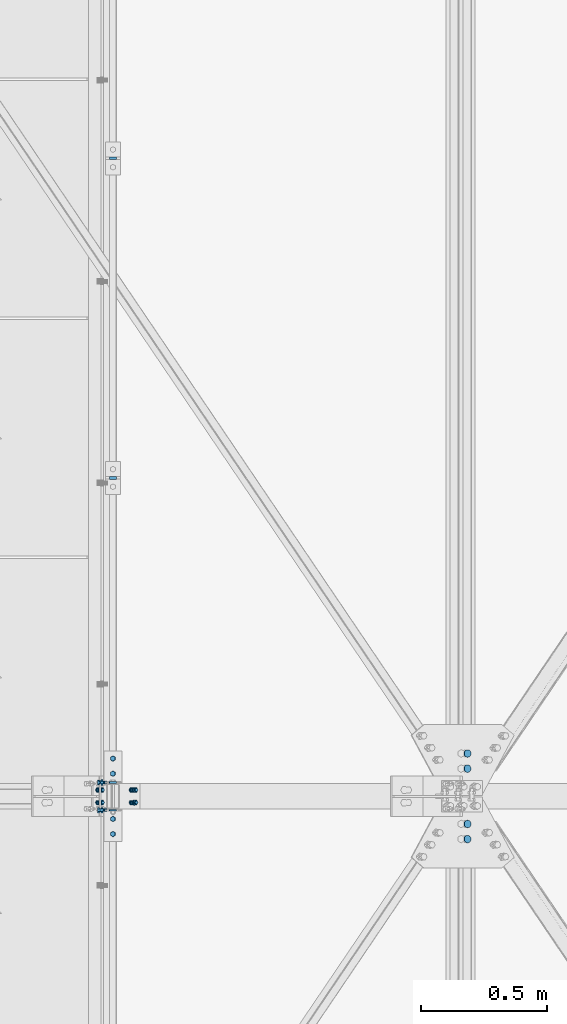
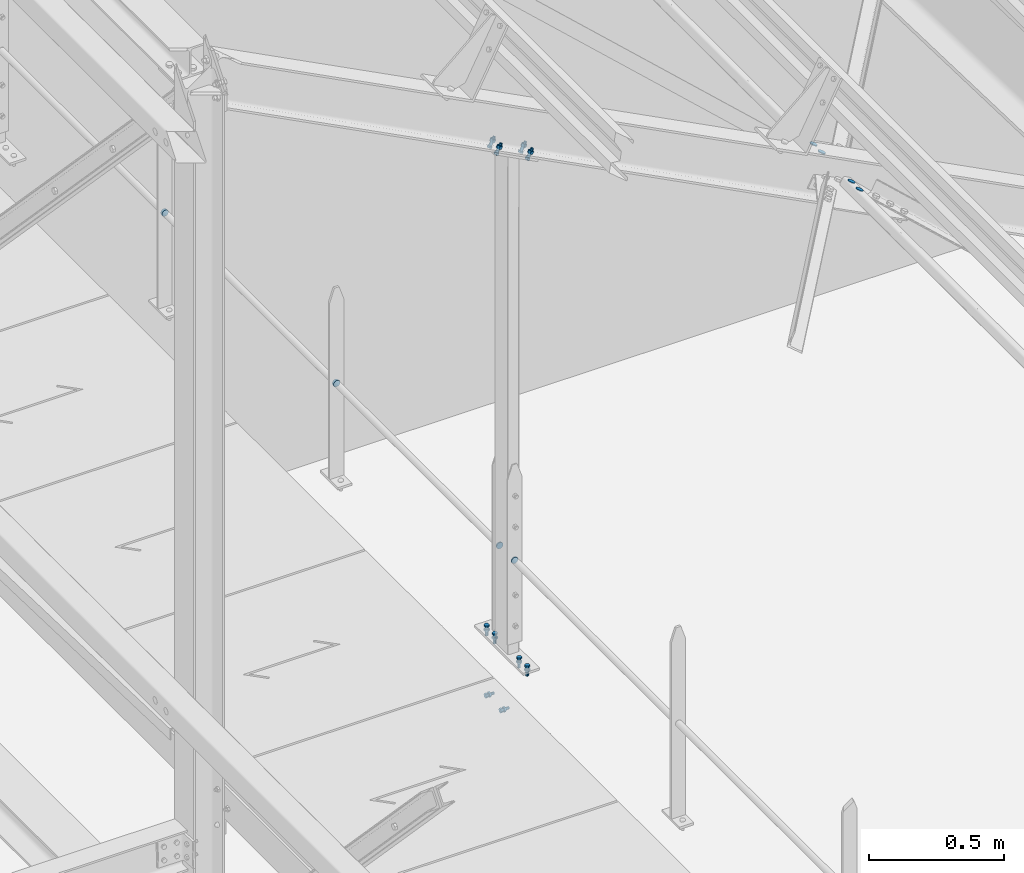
# One storey, part 276 of 362: 12 mechanical fasteners.
"""IFC2X3 building model written with IfcOpenShell, lengths in millimetres."""

from ifc_helpers import new_model, si_unit, frame, origin_with_axes, origin_2d_with_axis, place, context, subcontext, project, spatial, polyline, circle, outline, extrude, source, transform, mapped, material, type_object, element, save


model = new_model("IFC2X3")

# Units and contexts
model_context = context("Model", 3, precision=1e-05, world=origin_with_axes())
body_context = subcontext(model_context, "Body", "Model", "MODEL_VIEW")
ifc_project = project(units=[si_unit("LENGTHUNIT", "METRE", prefix="MILLI"), si_unit("AREAUNIT", "SQUARE_METRE"), si_unit("VOLUMEUNIT", "CUBIC_METRE"), si_unit("MASSUNIT", "GRAM", prefix="KILO"), si_unit("TIMEUNIT", "SECOND"), si_unit("PLANEANGLEUNIT", "RADIAN"), si_unit("SOLIDANGLEUNIT", "STERADIAN"), si_unit("THERMODYNAMICTEMPERATUREUNIT", "DEGREE_CELSIUS"), si_unit("LUMINOUSINTENSITYUNIT", "LUMEN")], contexts=[model_context])

# Site, building, storey
site_placement = place(None, origin_with_axes())
site = spatial("IfcSite", under=ifc_project, at=site_placement, Name="Undefined", CompositionType="ELEMENT")
building_placement = place(site_placement, origin_with_axes())
building = spatial("IfcBuilding", under=site, at=building_placement, Name="Undefined", CompositionType="ELEMENT")
storey_placement = place(building_placement, origin_with_axes())
storey = spatial("IfcBuildingStorey", under=building, at=storey_placement, Name="Undefined", CompositionType="ELEMENT", Elevation=0.0)

# Mechanical fasteners
ifc_material_1 = material(Name="8.8-SB-ZINGUE")
mechanical_fastener_type = type_object("IfcMechanicalFastenerType", Name="Bolt assembly")
shared_shape_1 = source(origin_with_axes(), body_context, "Body", "SweptSolid", [
    extrude(circle(Radius=7.0, at=origin_2d_with_axis()), frame((0.0, -10.0000010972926, 0.0), z_axis=(0.0, 1.0, 0.0), x_axis=(1.0, 0.0, 0.0)), (0.0, 0.0, 1.0), 10.1),
    extrude(outline(polyline([(10.39230484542, 0.0), (5.19615242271, 9.00000000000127), (-5.19615242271, 9.00000000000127), (-10.39230484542, 0.0), (-5.19615242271, -9.00000000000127), (5.19615242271, -9.00000000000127), (10.39230484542, 0.0)])), frame((0.0, -17.92, 0.0), z_axis=(0.0, 1.0, 0.0), x_axis=(1.0, 0.0, 0.0)), (0.0, 0.0, 1.0), 7.92),
    extrude(circle(Radius=6.0, at=origin_2d_with_axis()), frame((0.0, -10.0000010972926, 0.0), z_axis=(0.0, 1.0, 0.0), x_axis=(1.0, 0.0, 0.0)), (0.0, 0.0, 1.0), 40.0),
    extrude(outline(polyline([(11.5008173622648, 0.0), (5.7504086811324, 9.96000000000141), (-5.7504086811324, 9.96000000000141), (-11.5008173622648, 0.0), (-5.7504086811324, -9.96000000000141), (5.7504086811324, -9.96000000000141), (11.5008173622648, 0.0)])), frame((0.0, 0.0, 0.0), z_axis=(0.0, 1.0, 0.0), x_axis=(1.0, 0.0, 0.0)), (0.0, 0.0, 1.0), 7.92),
])
for number, where, z_axis, x_axis, name in (
    (1, (24783.9916006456, 3950.00010619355, 8239.99999240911), (1.0, 0.0, 0.0), (0.0, -1.0, 0.0), "Bolt assembly"),
    (2, (24783.9916006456, 3650.00010619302, 8240.00002612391), (-1.0, 0.0, 0.0), (0.0, 1.0, 0.0), "Bolt assembly"),
):
    element("IfcMechanicalFastener", number, at=place(storey_placement, frame(where, z_axis=z_axis, x_axis=x_axis)), inside=storey, type_object=mechanical_fastener_type, material=ifc_material_1, Name=name, NominalDiameter=12.0, NominalLength=40.0, context=body_context, shape_type="MappedRepresentation", body=[
        mapped(shared_shape_1, transform((0.0, 0.0, 0.0))),
        mapped(shared_shape_1, transform((60.0, 0.0, 0.0))),
    ])
ifc_material_2 = material(Name="6.8")
shared_shape_2 = source(origin_with_axes(), body_context, "Body", "SweptSolid", [
    extrude(circle(Radius=14.0, at=origin_2d_with_axis()), frame((0.0, -5.00000000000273, 0.0), z_axis=(0.0, 1.0, 0.0), x_axis=(1.0, 0.0, 0.0)), (0.0, 0.0, 1.0), 10.1),
])
for number, where, z_axis, x_axis, name in (
    (3, (24783.9916016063, 5065.00344013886, 8673.80000384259), (0.0, 0.0, 1.0), (-1.0, 0.0, 0.0), "Bolt assembly"),
    (4, (24783.9916025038, 6335.00344013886, 8673.8000029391), (0.0, 0.0, 1.0), (-1.0, 0.0, 0.0), "Bolt assembly"),
):
    element("IfcMechanicalFastener", number, at=place(storey_placement, frame(where, z_axis=z_axis, x_axis=x_axis)), inside=storey, type_object=mechanical_fastener_type, material=ifc_material_2, Name=name, NominalDiameter=27.0, NominalLength=10.0, context=body_context, shape_type="MappedRepresentation", body=[
        mapped(shared_shape_2, transform((0.0, 0.0, 0.0))),
    ])
shared_shape_3 = source(origin_with_axes(), body_context, "Body", "SweptSolid", [
    extrude(circle(Radius=14.0, at=origin_2d_with_axis()), frame((0.0, -2.5, 0.0), z_axis=(0.0, 1.0, 0.0), x_axis=(1.0, 0.0, 0.0)), (0.0, 0.0, 1.0), 5.1),
])
for number, where, z_axis, x_axis, name in (
    (5, (24783.9916006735, 3745.00000183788, 8673.80000478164), (0.0, 0.0, 1.0), (-1.0, 0.0, 0.0), "Bolt assembly"),
    (6, (24783.9916007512, 3855.00000182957, 8673.80000470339), (0.0, 0.0, 1.0), (-1.0, 0.0, 0.0), "Bolt assembly"),
):
    element("IfcMechanicalFastener", number, at=place(storey_placement, frame(where, z_axis=z_axis, x_axis=x_axis)), inside=storey, type_object=mechanical_fastener_type, material=ifc_material_2, Name=name, NominalDiameter=27.0, NominalLength=10.0, context=body_context, shape_type="MappedRepresentation", body=[
        mapped(shared_shape_3, transform((0.0, 0.0, 0.0))),
    ])
shared_shape_4 = source(origin_with_axes(), body_context, "Body", "SweptSolid", [
    extrude(circle(Radius=7.0, at=origin_2d_with_axis()), frame((0.0, -0.100011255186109, 0.0), z_axis=(0.0, 1.0, 0.0), x_axis=(1.0, 0.0, 0.0)), (0.0, 0.0, 1.0), 8.6),
    extrude(circle(Radius=7.0, at=origin_2d_with_axis()), frame((0.0, -9.9, 0.0), z_axis=(0.0, 1.0, 0.0), x_axis=(1.0, 0.0, 0.0)), (0.0, 0.0, 1.0), 10.0),
    extrude(outline(polyline([(10.39230484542, 0.0), (5.19615242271, 9.00000000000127), (-5.19615242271, 9.00000000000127), (-10.39230484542, 0.0), (-5.19615242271, -9.00000000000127), (5.19615242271, -9.00000000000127), (10.39230484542, 0.0)])), frame((0.0, -17.92, 0.0), z_axis=(0.0, 1.0, 0.0), x_axis=(1.0, 0.0, 0.0)), (0.0, 0.0, 1.0), 7.92),
    extrude(circle(Radius=6.0, at=origin_2d_with_axis()), frame((0.0, -10.0000010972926, 0.0), z_axis=(0.0, 1.0, 0.0), x_axis=(1.0, 0.0, 0.0)), (0.0, 0.0, 1.0), 40.0),
    extrude(circle(Radius=10.8, at=origin_2d_with_axis()), frame((0.0, 8.49999994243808, 0.0), z_axis=(0.0, 1.0, 0.0), x_axis=(1.0, 0.0, 0.0)), (0.0, 0.0, 1.0), 3.96),
    extrude(outline(polyline([(11.5008173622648, 0.0), (5.7504086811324, 9.96000000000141), (-5.7504086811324, 9.96000000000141), (-11.5008173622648, 0.0), (-5.7504086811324, -9.96000000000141), (5.7504086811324, -9.96000000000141), (11.5008173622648, 0.0)])), frame((0.0, 12.4599999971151, 0.0), z_axis=(0.0, 1.0, 0.0), x_axis=(1.0, 0.0, 0.0)), (0.0, 0.0, 1.0), 7.92),
])
for number, where, z_axis, x_axis, name in (
    (7, (24863.8999550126, 3799.99999999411, 10457.6989417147), (0.0, 1.0, 0.0), (-0.887870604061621, -1.29999898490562e-08, 0.460093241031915), "Bolt assembly"),
    (8, (24730.7193644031, 3799.9999999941, 10526.7129278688), (0.0, -1.0, 0.0), (0.887870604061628, 0.0, -0.460093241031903), "Bolt assembly"),
):
    element("IfcMechanicalFastener", number, at=place(storey_placement, frame(where, z_axis=z_axis, x_axis=x_axis)), inside=storey, type_object=mechanical_fastener_type, material=ifc_material_1, Name=name, NominalDiameter=12.0, NominalLength=40.0, context=body_context, shape_type="MappedRepresentation", body=[
        mapped(shared_shape_4, transform((0.0, 0.0, -25.0))),
        mapped(shared_shape_4, transform((0.0, 0.0, 25.0))),
    ])
shared_shape_5 = source(origin_with_axes(), body_context, "Body", "SweptSolid", [
    extrude(circle(Radius=7.0, at=origin_2d_with_axis()), frame((0.0, -6.5, 0.0), z_axis=(0.0, 1.0, 0.0), x_axis=(1.0, 0.0, 0.0)), (0.0, 0.0, 1.0), 6.1),
    extrude(outline(polyline([(10.39230484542, 0.0), (5.19615242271, 9.00000000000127), (-5.19615242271, 9.00000000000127), (-10.39230484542, 0.0), (-5.19615242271, -9.00000000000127), (5.19615242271, -9.00000000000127), (10.39230484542, 0.0)])), frame((0.0, -14.42, 0.0), z_axis=(0.0, 1.0, 0.0), x_axis=(1.0, 0.0, 0.0)), (0.0, 0.0, 1.0), 7.92),
    extrude(circle(Radius=6.0, at=origin_2d_with_axis()), frame((0.0, -6.5, 0.0), z_axis=(0.0, 1.0, 0.0), x_axis=(1.0, 0.0, 0.0)), (0.0, 0.0, 1.0), 30.0),
    extrude(outline(polyline([(11.5008173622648, 0.0), (5.7504086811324, 9.96000000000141), (-5.7504086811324, 9.96000000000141), (-11.5008173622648, 0.0), (-5.7504086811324, -9.96000000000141), (5.7504086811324, -9.96000000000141), (11.5008173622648, 0.0)])), frame((0.0, -0.5, 0.0), z_axis=(0.0, 1.0, 0.0), x_axis=(1.0, 0.0, 0.0)), (0.0, 0.0, 1.0), 7.92),
])
for number, where, z_axis, x_axis, name in (
    (9, (24736.4916006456, 3854.99999063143, 8015.00000000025), (0.0, 0.0, 1.0), (0.0, -1.0, 0.0), "Bolt assembly"),
    (10, (24736.4916006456, 3744.99999998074, 8015.00000000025), (0.0, 0.0, -1.0), (0.0, 1.0, 0.0), "Bolt assembly"),
):
    element("IfcMechanicalFastener", number, at=place(storey_placement, frame(where, z_axis=z_axis, x_axis=x_axis)), inside=storey, type_object=mechanical_fastener_type, material=ifc_material_1, Name=name, NominalDiameter=12.0, NominalLength=30.0, context=body_context, shape_type="MappedRepresentation", body=[
        mapped(shared_shape_5, transform((0.0, 0.0, 0.0))),
    ])
shared_shape_6 = source(origin_with_axes(), body_context, "Body", "SweptSolid", [
    extrude(circle(Radius=15.0, at=origin_2d_with_axis()), frame((0.0, 6.26397177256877e-05, 0.0), z_axis=(0.0, 1.0, 0.0), x_axis=(1.0, 0.0, 0.0)), (0.0, 0.0, 1.0), 4.1),
])
for number, where, z_axis, x_axis, name in (
    (11, (26193.4056356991, 3690.00132288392, 9926.43174767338), (0.887870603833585, 2.26639154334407e-05, -0.460093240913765), (2.01259999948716e-05, -0.999999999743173, -1.04209999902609e-05), "Bolt assembly"),
    (12, (26193.405632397, 3909.99908259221, 9926.43174767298), (-0.887870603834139, 2.26363914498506e-05, 0.460093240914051), (2.00950000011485e-05, 0.999999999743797, -1.04209999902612e-05), "Bolt assembly"),
):
    element("IfcMechanicalFastener", number, at=place(storey_placement, frame(where, z_axis=z_axis, x_axis=x_axis)), inside=storey, type_object=mechanical_fastener_type, material=ifc_material_2, Name=name, NominalDiameter=30.0, NominalLength=4.0, context=body_context, shape_type="MappedRepresentation", body=[
        mapped(shared_shape_6, transform((0.0, 0.0, 0.0))),
        mapped(shared_shape_6, transform((60.0, 0.0, 0.0))),
    ])

save(model, "model.ifc")
